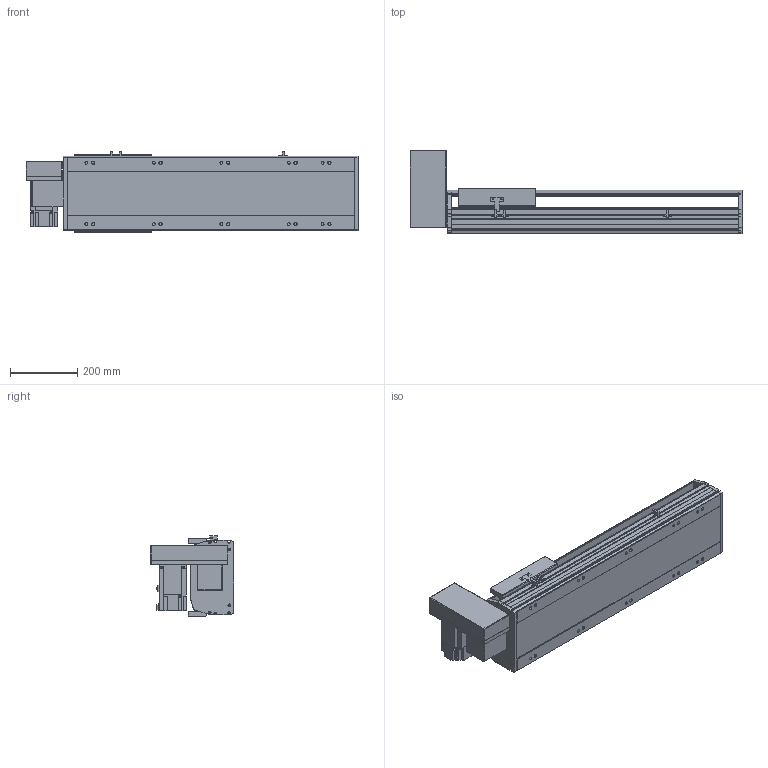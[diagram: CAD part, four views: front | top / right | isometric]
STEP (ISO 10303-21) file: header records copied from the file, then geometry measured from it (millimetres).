
FILE_DESCRIPTION(/* description */ ('STEP AP214'),/* implementation_level */ '2;1');
FILE_NAME(/* name */ 'PBS220-P40-S500-RU-T75-C1-N(0)',/* time_stamp */ '2022-06-13T02:50:12+02:00',/* author */ ('License CC BY-ND 4.0'),/* organization */ ('CADENAS'),/* preprocessor_version */ 'ST-DEVELOPER v18.102',/* originating_system */ 'PARTsolutions',/* authorisation */ ' ');
FILE_SCHEMA (('AUTOMOTIVE_DESIGN {1 0 10303 214 3 1 1}'));
Length unit declared in the file: millimetre
Products named in the file (7): PBS220-P40-S500-RU-T75-C1-N(0); PBS220_sensor; PBS220_plant; PBS220_sliser; T75-p1; PBS220T-RU_motors; PBS220-S500()_body
Assembly tree (8 placements, depth 2):
  PBS220-P40-S500-RU-T75-C1-N(0)
    PBS220_sensor  x3
    PBS220_plant
    PBS220_sliser
    T75-p1
    PBS220T-RU_motors
    PBS220-S500()_body
Bounding box: 984 x 247 x 238.5 mm (x, y, z)
Volume: 14722213.8 mm3; surface area: 1527729.6 mm2
Topology: 8 solids, 8 shells, 878 faces, 2312 edges, 1504 vertices
Faces by surface type: plane 586, cylinder 258, cone 34
Full cylindrical faces by diameter (mm): 2.013 x4, 4.5 x14, 4.917 x4, 6 x7, 6.647 x8, 8 x10, 8.376 x10, 8.5 x10, 10 x6, 14 x10, 38 x2, 40 x1, 70 x1
Entity records: 24693 total; most frequent: CARTESIAN_POINT 4294, DIRECTION 4293, ORIENTED_EDGE 3998, EDGE_CURVE 1999, AXIS2_PLACEMENT_3D 1477, VERTEX_POINT 1368, LINE 1339, VECTOR 1339
